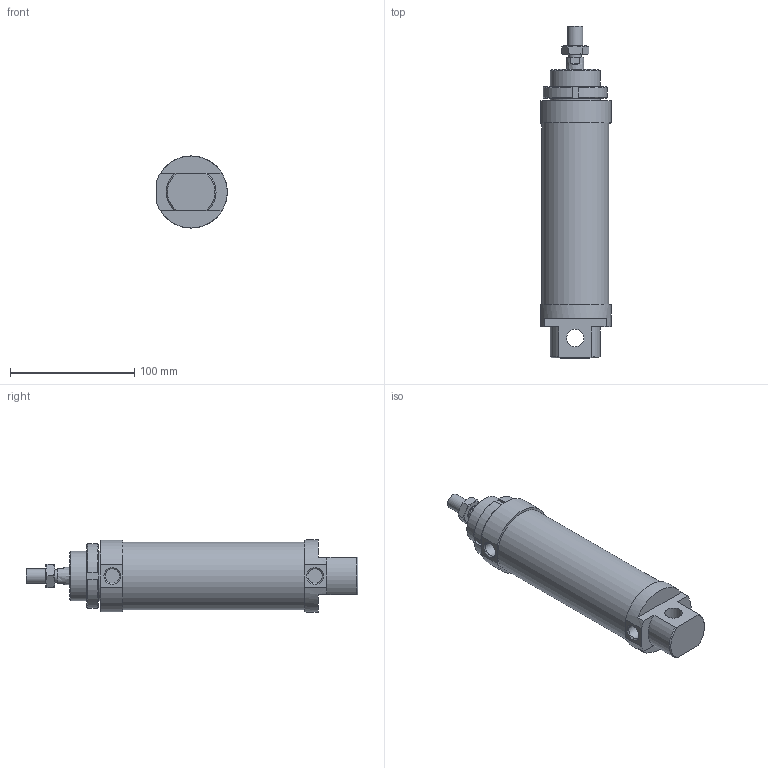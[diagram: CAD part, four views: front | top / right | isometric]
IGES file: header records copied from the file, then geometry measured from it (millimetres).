
Global section: file name: No Iges File Name specified; native system: AutoDesk Inventor R6.0; preprocessor: AutoDesk Inventor Iges Exporter R6.0; author: No Author specified; organization: No Organization specified; date: 20030402.144931; units: millimetre
Bounding box: 56.51 x 267 x 58 mm (x, y, z)
Surface area: 64766.1 mm2 (no closed solid volume)
Topology: 0 solids, 0 shells, 94 faces, 413 edges, 395 vertices
Faces by surface type: plane 44, revolution 39, bspline 11
